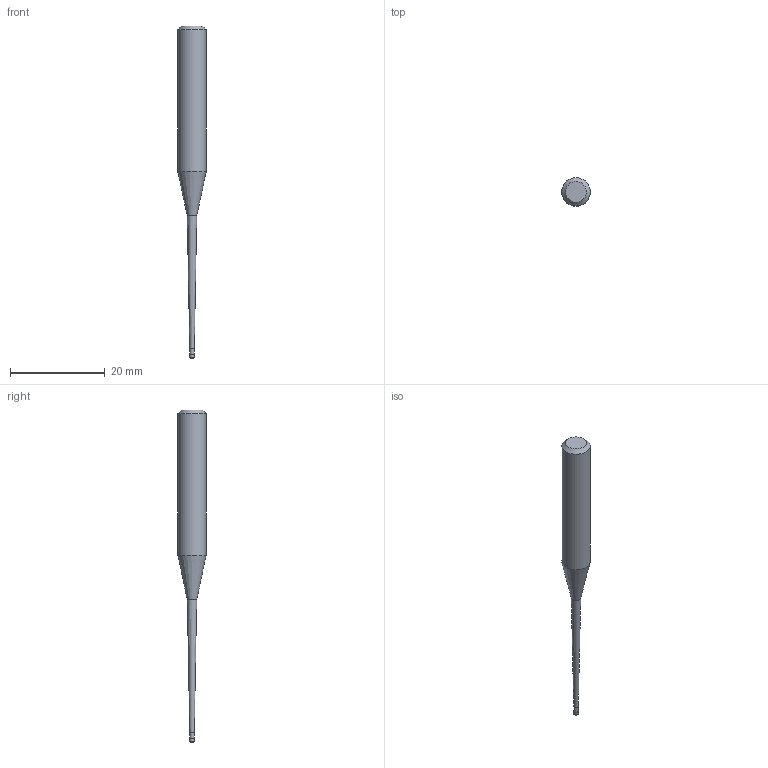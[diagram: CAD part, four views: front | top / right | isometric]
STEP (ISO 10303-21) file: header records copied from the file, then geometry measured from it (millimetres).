
FILE_DESCRIPTION((''),'2;1');
FILE_NAME('C:\Users\nsx150\AppData\Local\Temp\Mastercam 2021\YKS1SUSFZB\TEMP.step','2025-06-23T14:03:53',(''),(''),'STEP Write','Mastercam 2021 ... CNC Software, Inc.','');
FILE_SCHEMA(('AUTOMOTIVE_DESIGN'));
Length unit declared in the file: millimetre
Products named in the file (1): None
Bounding box: 6 x 6 x 70 mm (x, y, z)
Volume: 1039 mm3; surface area: 854.4 mm2
Topology: 2 solids, 2 shells, 11 faces, 16 edges, 9 vertices
Faces by surface type: plane 4, cylinder 3, cone 3, torus 1
Full cylindrical faces by diameter (mm): 0.955 x1, 1 x1, 6 x1
Entity records: 253 total; most frequent: DIRECTION 44, CARTESIAN_POINT 31, AXIS2_PLACEMENT_3D 22, ORIENTED_EDGE 18, EDGE_LOOP 18, STYLED_ITEM 14, ADVANCED_FACE 11, FACE_BOUND 11
